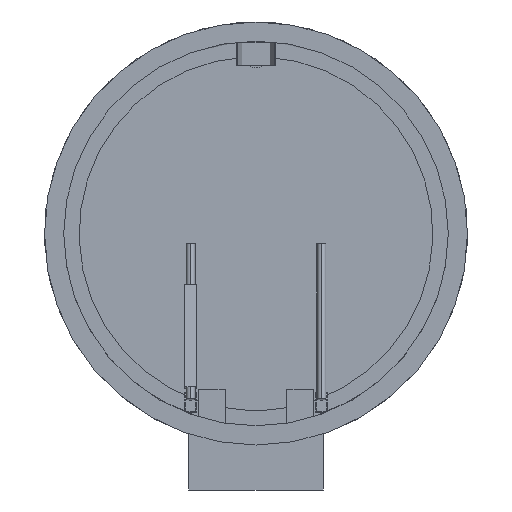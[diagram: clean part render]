
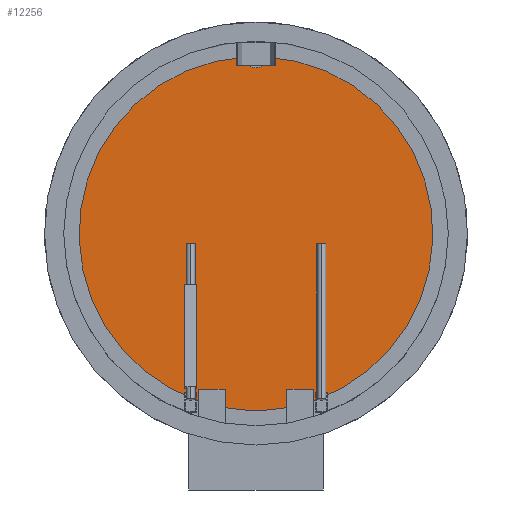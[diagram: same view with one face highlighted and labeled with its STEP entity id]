
A CAD part, front view. The second image highlights one B-rep face of the part: STEP entity #12256.
In plain terms, the highlighted planar face has unit normal (0, -1, 0).
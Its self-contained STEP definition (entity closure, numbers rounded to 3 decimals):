
#2655=DIRECTION('',(0.,0.,1.));
#2656=VECTOR('',#2655,29.856);
#2657=CARTESIAN_POINT('',(-150.,-86.,-434.856));
#2658=LINE('',#2657,#2656);
#2685=DIRECTION('',(0.,0.,-1.));
#2686=VECTOR('',#2685,47.99);
#2687=CARTESIAN_POINT('',(-80.,-86.,-405.));
#2688=LINE('',#2687,#2686);
#2844=DIRECTION('',(0.,0.,-1.));
#2845=VECTOR('',#2844,47.99);
#2846=CARTESIAN_POINT('',(80.,-86.,-405.));
#2847=LINE('',#2846,#2845);
#2856=CARTESIAN_POINT('',(0.,-86.,0.));
#2857=DIRECTION('',(0.,-1.,0.));
#2858=DIRECTION('',(-0.061,0.,0.998));
#2859=AXIS2_PLACEMENT_3D('',#2856,#2857,#2858);
#2875=CARTESIAN_POINT('',(0.,-86.,0.));
#2876=DIRECTION('',(0.,-1.,0.));
#2877=DIRECTION('',(0.326,0.,-0.945));
#2878=AXIS2_PLACEMENT_3D('',#2875,#2876,#2877);
#2884=CARTESIAN_POINT('',(0.,-86.,459.));
#2885=DIRECTION('',(0.,1.,0.));
#2886=DIRECTION('',(1.,0.,0.));
#2887=AXIS2_PLACEMENT_3D('',#2884,#2885,#2886);
#2889=CARTESIAN_POINT('',(0.,-86.,459.));
#2890=DIRECTION('',(0.,1.,0.));
#2891=DIRECTION('',(1.,0.,0.005));
#2892=AXIS2_PLACEMENT_3D('',#2889,#2890,#2891);
#2894=CARTESIAN_POINT('',(0.,-86.,0.));
#2895=DIRECTION('',(0.,1.,0.));
#2896=DIRECTION('',(0.174,0.,-0.985));
#2897=AXIS2_PLACEMENT_3D('',#2894,#2895,#2896);
#2899=CARTESIAN_POINT('',(0.,-86.,459.));
#2900=DIRECTION('',(0.,1.,0.));
#2901=DIRECTION('',(-1.,0.,0.));
#2902=AXIS2_PLACEMENT_3D('',#2899,#2900,#2901);
#2930=DIRECTION('',(0.,0.,-1.));
#2931=VECTOR('',#2930,29.856);
#2932=CARTESIAN_POINT('',(150.,-86.,-405.));
#2933=LINE('',#2932,#2931);
#2970=DIRECTION('',(1.,0.,0.));
#2971=VECTOR('',#2970,70.);
#2972=CARTESIAN_POINT('',(80.,-86.,-405.));
#2973=LINE('',#2972,#2971);
#2978=DIRECTION('',(1.,0.,0.));
#2979=VECTOR('',#2978,70.);
#2980=CARTESIAN_POINT('',(-150.,-86.,-405.));
#2981=LINE('',#2980,#2979);
#8750=CARTESIAN_POINT('',(28.,-86.,459.));
#8751=CARTESIAN_POINT('',(-28.,-86.,459.));
#8752=VERTEX_POINT('',#8750);
#8753=VERTEX_POINT('',#8751);
#8754=CARTESIAN_POINT('',(-28.,-86.,459.147));
#8755=VERTEX_POINT('',#8754);
#8760=CARTESIAN_POINT('',(28.,-86.,459.147));
#8761=VERTEX_POINT('',#8760);
#8832=CARTESIAN_POINT('',(80.,-86.,-405.));
#8833=CARTESIAN_POINT('',(150.,-86.,-405.));
#8834=VERTEX_POINT('',#8832);
#8835=VERTEX_POINT('',#8833);
#8836=CARTESIAN_POINT('',(-150.,-86.,-405.));
#8837=CARTESIAN_POINT('',(-80.,-86.,-405.));
#8838=VERTEX_POINT('',#8836);
#8839=VERTEX_POINT('',#8837);
#8854=CARTESIAN_POINT('',(80.,-86.,-452.99));
#8855=CARTESIAN_POINT('',(-80.,-86.,-452.99));
#8856=VERTEX_POINT('',#8854);
#8857=VERTEX_POINT('',#8855);
#8868=CARTESIAN_POINT('',(150.,-86.,-434.856));
#8869=VERTEX_POINT('',#8868);
#8874=CARTESIAN_POINT('',(-150.,-86.,-434.856));
#8875=VERTEX_POINT('',#8874);
#12231=CARTESIAN_POINT('',(0.,-86.,0.));
#12232=DIRECTION('',(0.,-1.,0.));
#12233=DIRECTION('',(1.,0.,0.));
#12234=AXIS2_PLACEMENT_3D('',#12231,#12232,#12233);
#12235=PLANE('',#12234);
#12237=ORIENTED_EDGE('',*,*,#12236,.F.);
#12239=ORIENTED_EDGE('',*,*,#12238,.F.);
#12240=ORIENTED_EDGE('',*,*,#12224,.F.);
#12242=ORIENTED_EDGE('',*,*,#12241,.F.);
#12244=ORIENTED_EDGE('',*,*,#12243,.F.);
#12245=ORIENTED_EDGE('',*,*,#12153,.T.);
#12246=ORIENTED_EDGE('',*,*,#12194,.T.);
#12247=ORIENTED_EDGE('',*,*,#12027,.F.);
#12249=ORIENTED_EDGE('',*,*,#12248,.F.);
#12250=ORIENTED_EDGE('',*,*,#11938,.F.);
#12251=ORIENTED_EDGE('',*,*,#12207,.F.);
#12253=ORIENTED_EDGE('',*,*,#12252,.F.);
#12254=EDGE_LOOP('',(#12237,#12239,#12240,#12242,#12244,#12245,#12246,#12247,
#12249,#12250,#12251,#12253));
#12255=FACE_OUTER_BOUND('',#12254,.F.);
#2860=CIRCLE('',#2859,460.);
#2879=CIRCLE('',#2878,460.);
#2888=CIRCLE('',#2887,28.);
#2893=CIRCLE('',#2892,28.);
#2898=CIRCLE('',#2897,460.);
#2903=CIRCLE('',#2902,28.);
#11938=EDGE_CURVE('',#8875,#8838,#2658,.T.);
#12027=EDGE_CURVE('',#8839,#8857,#2688,.T.);
#12153=EDGE_CURVE('',#8834,#8856,#2847,.T.);
#12194=EDGE_CURVE('',#8856,#8857,#2898,.T.);
#12207=EDGE_CURVE('',#8755,#8875,#2860,.T.);
#12224=EDGE_CURVE('',#8869,#8761,#2879,.T.);
#12236=EDGE_CURVE('',#8752,#8753,#2888,.T.);
#12238=EDGE_CURVE('',#8761,#8752,#2893,.T.);
#12241=EDGE_CURVE('',#8835,#8869,#2933,.T.);
#12243=EDGE_CURVE('',#8834,#8835,#2973,.T.);
#12248=EDGE_CURVE('',#8838,#8839,#2981,.T.);
#12252=EDGE_CURVE('',#8753,#8755,#2903,.T.);
#12256=ADVANCED_FACE('',(#12255),#12235,.T.);
